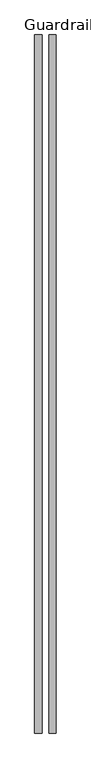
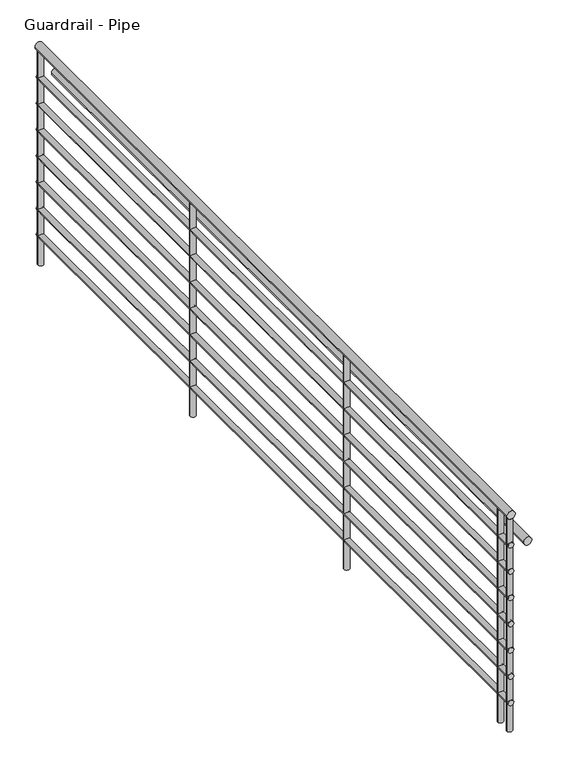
"""IFC4 building model written with IfcOpenShell, lengths in millimetres: railing geometry, Guardrail - Pipe."""

import ifcopenshell
import ifcopenshell.guid

model = None  # the IFC model being written
_history = None  # IfcOwnerHistory: only IFC2X3 demands one
_inside = {}  # id of a spatial element -> (the spatial element, [elements in it])
_under = {}  # id of a project, library or spatial element -> (it, [spatial elements below it])
_declared = {}  # id of a project -> (the project, [libraries it declares])
_typed = {}  # id of a type object -> (the type object, [elements of that type])
_made_of = {}  # id of a material, layer set ... -> (it, [elements and type objects made of it])


def new_model(schema):
    """Start an empty IFC model of exactly this schema.

    Asked for "IFC4X3", IfcOpenShell would pick the latest addendum, in which some entities
    have other attributes; the version numbers below select the first issue.
    IFC2X3 requires an IfcOwnerHistory on every rooted entity: one is made here for all.
    """
    global model, _history
    if schema == "IFC4X3":
        model = ifcopenshell.file(schema_version=(4, 3, 0, 0))
    else:
        model = ifcopenshell.file(schema=schema)
    _inside.clear()
    _under.clear()
    _declared.clear()
    _typed.clear()
    _made_of.clear()
    _history = None
    if model.schema == "IFC2X3":
        org = make("IfcOrganization", Name="unknown")
        user = make(
            "IfcPersonAndOrganization",
            ThePerson=make("IfcPerson", FamilyName="unknown"),
            TheOrganization=org,
        )
        app = make(
            "IfcApplication",
            ApplicationDeveloper=org,
            Version="unknown",
            ApplicationFullName="unknown",
            ApplicationIdentifier="unknown",
        )
        _history = make(
            "IfcOwnerHistory",
            OwningUser=user,
            OwningApplication=app,
            ChangeAction="ADDED",
            CreationDate=0,
        )
    return model


def make(cls, **values):
    """One entity of the class cls with the attributes given. An attribute that is None is left unset."""
    return model.create_entity(
        cls, **{name: value for name, value in values.items() if value is not None}
    )


def rooted(cls, **values):
    """An entity with a GlobalId (a new one), such as an element, a storey or a relation."""
    return make(cls, GlobalId=ifcopenshell.guid.new(), OwnerHistory=_history, **values)


def si_unit(unit_type, name, prefix=None):
    """IfcSIUnit, for example si_unit("LENGTHUNIT", "METRE", prefix="MILLI")."""
    return make("IfcSIUnit", UnitType=unit_type, Prefix=prefix, Name=name)


def assignment(units):
    """IfcUnitAssignment: the units of a project."""
    return None if units is None else make("IfcUnitAssignment", Units=units)


def point(xyz):
    """IfcCartesianPoint."""
    return None if xyz is None else make("IfcCartesianPoint", Coordinates=xyz)


def direction(xyz):
    """IfcDirection."""
    return None if xyz is None else make("IfcDirection", DirectionRatios=xyz)


def frame(location, z_axis=None, x_axis=None):
    """IfcAxis2Placement3D, a coordinate frame: its origin and axes. An axis left out is left unset."""
    return make(
        "IfcAxis2Placement3D",
        Location=point(location),
        Axis=direction(z_axis),
        RefDirection=direction(x_axis),
    )


def frame_2d(location, x_axis=None):
    """IfcAxis2Placement2D, a coordinate frame in the plane: its origin and x axis."""
    return make(
        "IfcAxis2Placement2D", Location=point(location), RefDirection=direction(x_axis)
    )


def origin():
    """The frame at (0, 0, 0) with its axes left unset."""
    return frame((0.0, 0.0, 0.0))


def origin_with_axes():
    """The frame at (0, 0, 0) with the z axis (0, 0, 1) and the x axis (1, 0, 0) written out."""
    return frame((0.0, 0.0, 0.0), z_axis=(0.0, 0.0, 1.0), x_axis=(1.0, 0.0, 0.0))


def place(relative_to, where):
    """IfcLocalPlacement: puts the frame where relative to a parent placement (None: the world)."""
    return make(
        "IfcLocalPlacement", PlacementRelTo=relative_to, RelativePlacement=where
    )


def context(
    kind, dimensions, precision=None, world=None, true_north=None, identifier=None
):
    """IfcGeometricRepresentationContext, for example the 3D "Model" context."""
    return make(
        "IfcGeometricRepresentationContext",
        ContextIdentifier=identifier,
        ContextType=kind,
        CoordinateSpaceDimension=dimensions,
        Precision=precision,
        WorldCoordinateSystem=world,
        TrueNorth=true_north,
    )


def project(units=None, contexts=None):
    """IfcProject with its units and contexts."""
    return rooted(
        "IfcProject",
        Name="project",
        RepresentationContexts=contexts,
        UnitsInContext=assignment(units),
    )


def spatial(cls, under=None, at=None, **own):
    """A site, building, storey or space (cls), placed at a placement, below another one or the project."""
    s = rooted(cls, ObjectPlacement=at, **own)
    if under is not None:
        _under.setdefault(under.id(), (under, []))[1].append(s)
    return s


def circle_curve(where, radius):
    """IfcCircle in the frame where."""
    return make("IfcCircle", Position=where, Radius=radius)


def trimmed(basis, trim1, trim2, sense, master):
    """IfcTrimmedCurve: the piece of a basis curve between two trims."""
    return make(
        "IfcTrimmedCurve",
        BasisCurve=basis,
        Trim1=trim1,
        Trim2=trim2,
        SenseAgreement=sense,
        MasterRepresentation=master,
    )


def segment(curve, same_sense, transition):
    """IfcCompositeCurveSegment."""
    return make(
        "IfcCompositeCurveSegment",
        Transition=transition,
        SameSense=same_sense,
        ParentCurve=curve,
    )


def composite_curve(segments, self_intersect=None):
    """IfcCompositeCurve: segments joined end to end."""
    return make("IfcCompositeCurve", Segments=segments, SelfIntersect=self_intersect)


def outline(outer, holes=None, kind="AREA"):
    """IfcArbitraryClosedProfileDef: a profile drawn as a closed curve; with holes, ...WithVoids."""
    if holes is None:
        return make("IfcArbitraryClosedProfileDef", ProfileType=kind, OuterCurve=outer)
    return make(
        "IfcArbitraryProfileDefWithVoids",
        ProfileType=kind,
        OuterCurve=outer,
        InnerCurves=holes,
    )


def extrude(swept, where, along, depth):
    """IfcExtrudedAreaSolid: the profile swept, set in the frame where, extruded along a direction by depth."""
    return make(
        "IfcExtrudedAreaSolid",
        SweptArea=swept,
        Position=where,
        ExtrudedDirection=direction(along),
        Depth=depth,
    )


def shape(context_of_items, identifier, shape_type, items):
    """IfcShapeRepresentation: the items that make up one representation, for example the "Body"."""
    return make(
        "IfcShapeRepresentation",
        ContextOfItems=context_of_items,
        RepresentationIdentifier=identifier,
        RepresentationType=shape_type,
        Items=items,
    )


def source(mapping_origin, context_of_items, identifier, shape_type, items):
    """IfcRepresentationMap: a shape defined once, which mapped items show again and again."""
    return make(
        "IfcRepresentationMap",
        MappingOrigin=mapping_origin,
        MappedRepresentation=shape(context_of_items, identifier, shape_type, items),
    )


def transform(
    local_origin,
    x_axis=None,
    y_axis=None,
    z_axis=None,
    scale=None,
    scale2=None,
    scale3=None,
    uniform=True,
):
    """IfcCartesianTransformationOperator3D, or its non-uniform kind. x_axis, y_axis, z_axis: its Axis1, 2, 3."""
    if uniform:
        return make(
            "IfcCartesianTransformationOperator3D",
            Axis1=direction(x_axis),
            Axis2=direction(y_axis),
            LocalOrigin=point(local_origin),
            Scale=scale,
            Axis3=direction(z_axis),
        )
    return make(
        "IfcCartesianTransformationOperator3DnonUniform",
        Axis1=direction(x_axis),
        Axis2=direction(y_axis),
        LocalOrigin=point(local_origin),
        Scale=scale,
        Axis3=direction(z_axis),
        Scale2=scale2,
        Scale3=scale3,
    )


def mapped(mapping_source, mapping_target):
    """IfcMappedItem: shows the shape of a source again, moved by a transform."""
    return make(
        "IfcMappedItem", MappingSource=mapping_source, MappingTarget=mapping_target
    )


def made_of(thing, what):
    """Note that an element or type object is made of a material, layer set ...; save() writes the relation."""
    if what is not None:
        _made_of.setdefault(what.id(), (what, []))[1].append(thing)
    return thing


def element(
    cls,
    number,
    at=None,
    inside=None,
    cuts=None,
    type_object=None,
    material=None,
    context=None,
    identifier="Body",
    shape_type=None,
    held_by="IfcProductDefinitionShape",
    body=None,
    shapes=None,
    **own,
):
    """One element of the class cls, such as IfcWall. Its Tag is "e" and its number.

    at: its placement. inside: the storey or other place that contains it. cuts: it is an
    opening in that element (IfcRelVoidsElement). A single representation is given by context,
    identifier, shape_type and body (its items); several are given by shapes. held_by: the class
    of the entity that holds the representations. save() writes the other relations.
    """
    e = rooted(cls, Tag="e%d" % number, ObjectPlacement=at, **own)
    if body is not None:
        shapes = [shape(context, identifier, shape_type, body)]
    if shapes is not None:
        e.Representation = make(held_by, Representations=shapes)
    if inside is not None:
        _inside.setdefault(inside.id(), (inside, []))[1].append(e)
    if cuts is not None:
        rooted(
            "IfcRelVoidsElement", RelatingBuildingElement=cuts, RelatedOpeningElement=e
        )
    if type_object is not None:
        _typed.setdefault(type_object.id(), (type_object, []))[1].append(e)
    return made_of(e, material)


def aggregate(whole, parts):
    """IfcRelAggregates: a whole, such as a stair, and the parts it consists of."""
    return rooted("IfcRelAggregates", RelatingObject=whole, RelatedObjects=parts)


def save(model, path):
    """Write the relations noted so far, then the file.

    IfcRelAggregates (storeys below a building ...), IfcRelContainedInSpatialStructure (elements
    in a storey), IfcRelDefinesByType, IfcRelAssociatesMaterial and IfcRelDeclares: one each for
    every whole, place, type object, material and project.
    """
    for whole, parts in _under.values():
        aggregate(whole, parts)
    for where, things in _inside.values():
        rooted(
            "IfcRelContainedInSpatialStructure",
            RelatedElements=things,
            RelatingStructure=where,
        )
    for kind, things in _typed.values():
        rooted("IfcRelDefinesByType", RelatedObjects=things, RelatingType=kind)
    for what, things in _made_of.values():
        rooted("IfcRelAssociatesMaterial", RelatedObjects=things, RelatingMaterial=what)
    for by, libraries in _declared.values():
        rooted("IfcRelDeclares", RelatingContext=by, RelatedDefinitions=libraries)
    model.write(path)


def guardrail_pipe_22772604(model_context):
    return source(origin(), model_context, "Body", "SweptSolid", [
        extrude(outline(composite_curve([segment(trimmed(circle_curve(frame_2d((1047.75, -30640.9437367)), 19.05), [point((1047.75, -30621.8937367))], [point((1047.75, -30659.9937367))], False, "CARTESIAN"), True, "CONTINUOUS"), segment(trimmed(circle_curve(frame_2d((1047.75, -30640.9437367)), 19.05), [point((1047.75, -30659.9937367))], [point((1047.75, -30621.8937367))], False, "CARTESIAN"), True, "CONTINUOUS")], self_intersect=False)), frame((0.0, -3379.4308613, 0.0), z_axis=(0.0, 1.0, 0.0), x_axis=(0.0, 0.0, 1.0)), (0.0, 0.0, 1.0), 3741.7375),
        extrude(outline(composite_curve([segment(trimmed(circle_curve(frame_2d((901.7, -30640.9437367)), 12.7), [point((901.7, -30628.2437367))], [point((901.7, -30653.6437367))], False, "CARTESIAN"), True, "CONTINUOUS"), segment(trimmed(circle_curve(frame_2d((901.7, -30640.9437367)), 12.7), [point((901.7, -30653.6437367))], [point((901.7, -30628.2437367))], False, "CARTESIAN"), True, "CONTINUOUS")], self_intersect=False)), frame((0.0, -3379.4308613, 0.0), z_axis=(0.0, 1.0, 0.0), x_axis=(0.0, 0.0, 1.0)), (0.0, 0.0, 1.0), 3741.7375),
        extrude(outline(composite_curve([segment(trimmed(circle_curve(frame_2d((895.35, -30564.7437367)), 19.05), [point((895.35, -30545.6937367))], [point((895.35, -30583.7937367))], False, "CARTESIAN"), True, "CONTINUOUS"), segment(trimmed(circle_curve(frame_2d((895.35, -30564.7437367)), 19.05), [point((895.35, -30583.7937367))], [point((895.35, -30545.6937367))], False, "CARTESIAN"), True, "CONTINUOUS")], self_intersect=False)), frame((0.0, -3379.4308613, 0.0), z_axis=(0.0, 1.0, 0.0), x_axis=(0.0, 0.0, 1.0)), (0.0, 0.0, 1.0), 3741.7375),
        extrude(outline(composite_curve([segment(trimmed(circle_curve(frame_2d((774.7, -30640.9437367)), 12.7), [point((774.7, -30628.2437367))], [point((774.7, -30653.6437367))], False, "CARTESIAN"), True, "CONTINUOUS"), segment(trimmed(circle_curve(frame_2d((774.7, -30640.9437367)), 12.7), [point((774.7, -30653.6437367))], [point((774.7, -30628.2437367))], False, "CARTESIAN"), True, "CONTINUOUS")], self_intersect=False)), frame((0.0, -3379.4308613, 0.0), z_axis=(0.0, 1.0, 0.0), x_axis=(0.0, 0.0, 1.0)), (0.0, 0.0, 1.0), 3741.7375),
        extrude(outline(composite_curve([segment(trimmed(circle_curve(frame_2d((647.7, -30640.9437367)), 12.7), [point((647.7, -30628.2437367))], [point((647.7, -30653.6437367))], False, "CARTESIAN"), True, "CONTINUOUS"), segment(trimmed(circle_curve(frame_2d((647.7, -30640.9437367)), 12.7), [point((647.7, -30653.6437367))], [point((647.7, -30628.2437367))], False, "CARTESIAN"), True, "CONTINUOUS")], self_intersect=False)), frame((0.0, -3379.4308613, 0.0), z_axis=(0.0, 1.0, 0.0), x_axis=(0.0, 0.0, 1.0)), (0.0, 0.0, 1.0), 3741.7375),
        extrude(outline(composite_curve([segment(trimmed(circle_curve(frame_2d((520.7, -30640.9437367)), 12.7), [point((520.7, -30628.2437367))], [point((520.7, -30653.6437367))], False, "CARTESIAN"), True, "CONTINUOUS"), segment(trimmed(circle_curve(frame_2d((520.7, -30640.9437367)), 12.7), [point((520.7, -30653.6437367))], [point((520.7, -30628.2437367))], False, "CARTESIAN"), True, "CONTINUOUS")], self_intersect=False)), frame((0.0, -3379.4308613, 0.0), z_axis=(0.0, 1.0, 0.0), x_axis=(0.0, 0.0, 1.0)), (0.0, 0.0, 1.0), 3741.7375),
        extrude(outline(composite_curve([segment(trimmed(circle_curve(frame_2d((393.7, -30640.9437367)), 12.7), [point((393.7, -30628.2437367))], [point((393.7, -30653.6437367))], False, "CARTESIAN"), True, "CONTINUOUS"), segment(trimmed(circle_curve(frame_2d((393.7, -30640.9437367)), 12.7), [point((393.7, -30653.6437367))], [point((393.7, -30628.2437367))], False, "CARTESIAN"), True, "CONTINUOUS")], self_intersect=False)), frame((0.0, -3379.4308613, 0.0), z_axis=(0.0, 1.0, 0.0), x_axis=(0.0, 0.0, 1.0)), (0.0, 0.0, 1.0), 3741.7375),
        extrude(outline(composite_curve([segment(trimmed(circle_curve(frame_2d((266.7, -30640.9437367)), 12.7), [point((266.7, -30628.2437367))], [point((266.7, -30653.6437367))], False, "CARTESIAN"), True, "CONTINUOUS"), segment(trimmed(circle_curve(frame_2d((266.7, -30640.9437367)), 12.7), [point((266.7, -30653.6437367))], [point((266.7, -30628.2437367))], False, "CARTESIAN"), True, "CONTINUOUS")], self_intersect=False)), frame((0.0, -3379.4308613, 0.0), z_axis=(0.0, 1.0, 0.0), x_axis=(0.0, 0.0, 1.0)), (0.0, 0.0, 1.0), 3741.7375),
        extrude(outline(composite_curve([segment(trimmed(circle_curve(frame_2d((139.7, -30640.9437367)), 12.7), [point((139.7, -30628.2437367))], [point((139.7, -30653.6437367))], False, "CARTESIAN"), True, "CONTINUOUS"), segment(trimmed(circle_curve(frame_2d((139.7, -30640.9437367)), 12.7), [point((139.7, -30653.6437367))], [point((139.7, -30628.2437367))], False, "CARTESIAN"), True, "CONTINUOUS")], self_intersect=False)), frame((0.0, -3379.4308613, 0.0), z_axis=(0.0, 1.0, 0.0), x_axis=(0.0, 0.0, 1.0)), (0.0, 0.0, 1.0), 3741.7375),
        extrude(outline(composite_curve([segment(trimmed(circle_curve(frame_2d((-30640.9437367, -3295.2933613)), 12.7), [point((-30628.2437367, -3295.2933613))], [point((-30653.6437367, -3295.2933613))], False, "CARTESIAN"), True, "CONTINUOUS"), segment(trimmed(circle_curve(frame_2d((-30640.9437367, -3295.2933613)), 12.7), [point((-30653.6437367, -3295.2933613))], [point((-30628.2437367, -3295.2933613))], False, "CARTESIAN"), True, "CONTINUOUS")], self_intersect=False)), origin_with_axes(), (0.0, 0.0, 1.0), 1028.7),
        extrude(outline(composite_curve([segment(trimmed(circle_curve(frame_2d((-30640.9437367, -2076.0933613)), 12.7), [point((-30628.2437367, -2076.0933613))], [point((-30653.6437367, -2076.0933613))], False, "CARTESIAN"), True, "CONTINUOUS"), segment(trimmed(circle_curve(frame_2d((-30640.9437367, -2076.0933613)), 12.7), [point((-30653.6437367, -2076.0933613))], [point((-30628.2437367, -2076.0933613))], False, "CARTESIAN"), True, "CONTINUOUS")], self_intersect=False)), origin_with_axes(), (0.0, 0.0, 1.0), 1028.7),
        extrude(outline(composite_curve([segment(trimmed(circle_curve(frame_2d((-30640.9437367, -856.8933613)), 12.7), [point((-30628.2437367, -856.8933613))], [point((-30653.6437367, -856.8933613))], False, "CARTESIAN"), True, "CONTINUOUS"), segment(trimmed(circle_curve(frame_2d((-30640.9437367, -856.8933613)), 12.7), [point((-30653.6437367, -856.8933613))], [point((-30628.2437367, -856.8933613))], False, "CARTESIAN"), True, "CONTINUOUS")], self_intersect=False)), origin_with_axes(), (0.0, 0.0, 1.0), 1028.7),
        extrude(outline(composite_curve([segment(trimmed(circle_curve(frame_2d((-30640.9437367, -3366.7308613)), 12.7), [point((-30628.2437367, -3366.7308613))], [point((-30653.6437367, -3366.7308613))], False, "CARTESIAN"), True, "CONTINUOUS"), segment(trimmed(circle_curve(frame_2d((-30640.9437367, -3366.7308613)), 12.7), [point((-30653.6437367, -3366.7308613))], [point((-30628.2437367, -3366.7308613))], False, "CARTESIAN"), True, "CONTINUOUS")], self_intersect=False)), origin_with_axes(), (0.0, 0.0, 1.0), 1028.7),
        extrude(outline(composite_curve([segment(trimmed(circle_curve(frame_2d((-30640.9437367, 349.6066387)), 12.7), [point((-30628.2437367, 349.6066387))], [point((-30653.6437367, 349.6066387))], False, "CARTESIAN"), True, "CONTINUOUS"), segment(trimmed(circle_curve(frame_2d((-30640.9437367, 349.6066387)), 12.7), [point((-30653.6437367, 349.6066387))], [point((-30628.2437367, 349.6066387))], False, "CARTESIAN"), True, "CONTINUOUS")], self_intersect=False)), origin_with_axes(), (0.0, 0.0, 1.0), 1028.7),
    ])


if __name__ == "__main__":
    model = new_model("IFC4")
    model_context = context("Model", 3, world=origin())
    ifc_project = project(units=[si_unit("LENGTHUNIT", "METRE", prefix="MILLI")], contexts=[model_context])
    site = spatial("IfcSite", under=ifc_project)
    building = spatial("IfcBuilding", under=site)
    placement = place(None, origin())
    guardrail_pipe_shape = guardrail_pipe_22772604(model_context)
    element("IfcRailing", 1, ObjectType="Guardrail - Pipe", at=placement, inside=building, context=model_context, shape_type="MappedRepresentation", body=[
        mapped(guardrail_pipe_shape, transform((0.0, 0.0, 0.0), x_axis=(1.0, 0.0, 0.0), y_axis=(0.0, 1.0, 0.0), z_axis=(0.0, 0.0, 1.0))),
    ])
    save(model, "model.ifc")
